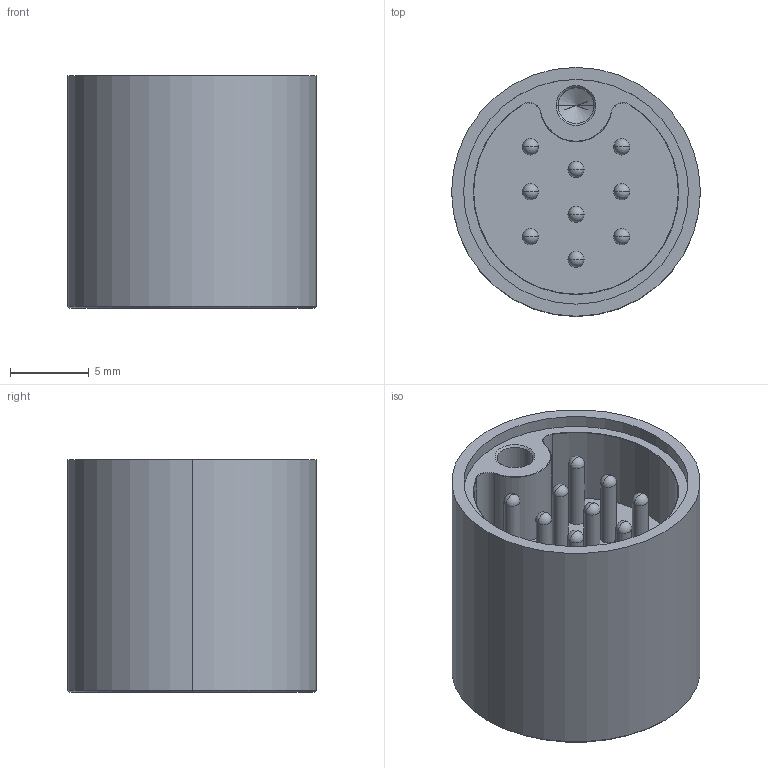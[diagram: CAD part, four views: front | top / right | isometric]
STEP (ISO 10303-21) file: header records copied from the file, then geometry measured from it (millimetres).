
FILE_DESCRIPTION(/* description */ ('Alibre Inc.'),/* implementation_level */ '2;1');
FILE_NAME(/* name */ 'EAG_9C',/* time_stamp */ '2016-05-02T08:52:26-07:00',/* author */ (''),/* organization */ ('accu-glass'),/* preprocessor_version */ 'ST-DEVELOPER v14',/* originating_system */ 'Alibre',/* authorisation */ '');
FILE_SCHEMA (('CONFIG_CONTROL_DESIGN'));
Length unit declared in the file: inch
Products named in the file (1): ID_1
Bounding box: 15.75 x 15.75 x 14.73 mm (x, y, z)
Volume: 1466.9 mm3; surface area: 1962.6 mm2
Topology: 1 solids, 1 shells, 119 faces, 284 edges, 150 vertices
Faces by surface type: cylinder 56, sphere 36, cone 22, plane 5
Entity records: 3100 total; most frequent: DIRECTION 589, ORIENTED_EDGE 488, CARTESIAN_POINT 477, AXIS2_PLACEMENT_3D 267, EDGE_CURVE 244, CIRCLE 166, VERTEX_POINT 150, EDGE_LOOP 142
